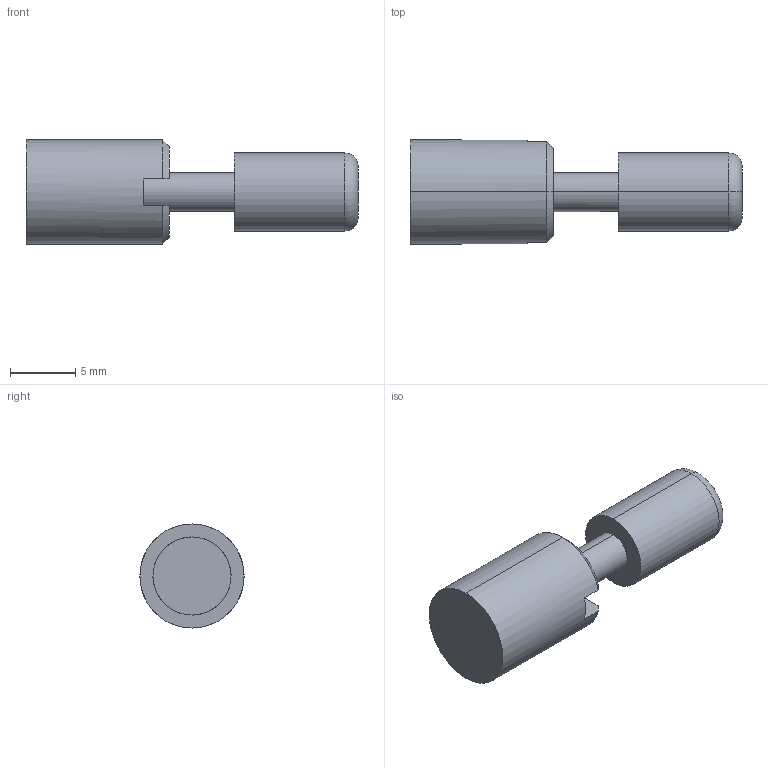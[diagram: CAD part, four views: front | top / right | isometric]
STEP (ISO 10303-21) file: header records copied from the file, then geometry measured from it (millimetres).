
FILE_DESCRIPTION(('CATIA V5 STEP Exchange'),'2;1');
FILE_NAME('C:\Users\Utente\Desktop\IO LAVORO\3D X SITO CF\X SITO\PLASTICA\CF-VPA\CF-VPA8.stp','2021-03-24T12:58:13+00:00',('none'),('none'),'CATIA Version 5 Release 20 GA (IN-10)','CATIA V5 STEP AP203','none');
FILE_SCHEMA(('CONFIG_CONTROL_DESIGN'));
Length unit declared in the file: millimetre
Products named in the file (1): CF-VPA8
Assembly tree (2 placements, depth 2):
  CF-VPA8
    #58
    #763
Bounding box: 25.5 x 8 x 8 mm (x, y, z)
Volume: 785.6 mm3; surface area: 894.7 mm2
Topology: 2 solids, 2 shells, 30 faces, 88 edges, 62 vertices
Faces by surface type: plane 12, cone 8, cylinder 8, torus 2
Entity records: 1143 total; most frequent: CARTESIAN_POINT 270, ORIENTED_EDGE 176, DIRECTION 144, EDGE_CURVE 88, AXIS2_PLACEMENT_3D 80, VERTEX_POINT 62, CIRCLE 46, EDGE_LOOP 32
